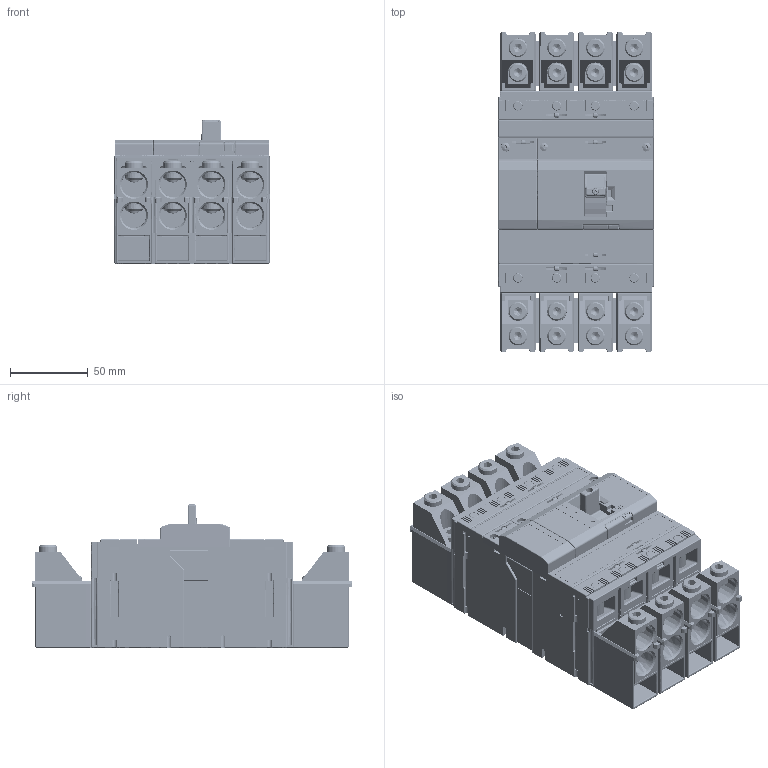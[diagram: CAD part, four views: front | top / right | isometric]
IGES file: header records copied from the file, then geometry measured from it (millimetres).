
Start section: SolidWorks IGES file using analytic representation for surfaces
Global section: file name: U:\14_RD\05_Technical_office\04_Office\Hrdinova\3D modely - IGES\Modeion\BC160NT405_406__CS-BC-B421.IGS; native system: SolidWorks 2011; preprocessor: SolidWorks 2011; author: adhrja3; date: 170615.142944; units: millimetre
Bounding box: 100 x 207 x 92.5 mm (x, y, z)
Surface area: 289362.9 mm2 (no closed solid volume)
Topology: 0 solids, 0 shells, 7316 faces, 64795 edges, 64693 vertices
Faces by surface type: bspline 4725, revolution 2591
